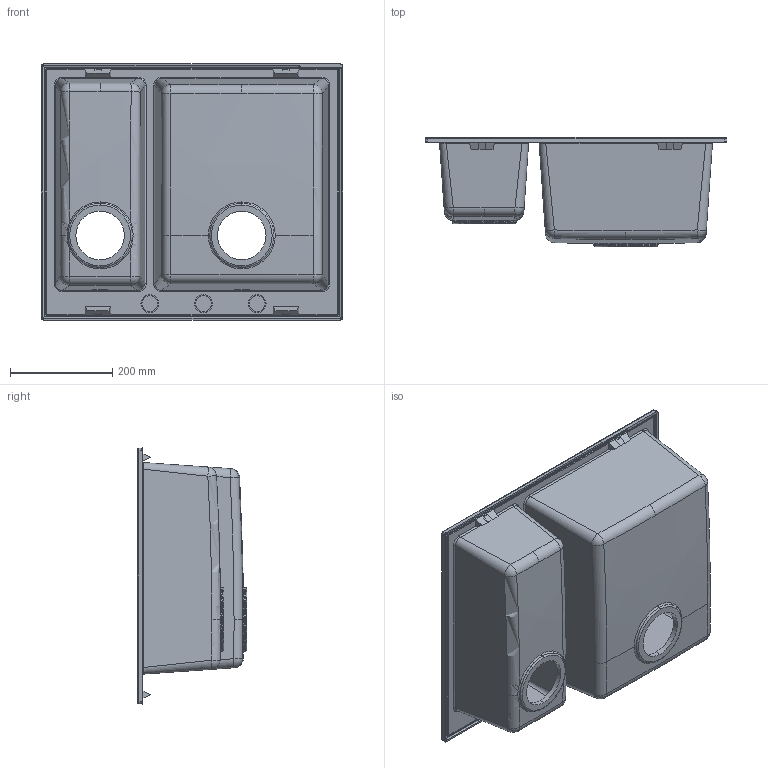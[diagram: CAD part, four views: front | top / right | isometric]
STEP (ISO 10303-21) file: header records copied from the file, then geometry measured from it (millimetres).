
FILE_DESCRIPTION (( 'STEP AP203' ), '1' );
FILE_NAME ('Quadra150.STEP', '2018-11-14T15:33:31', ( '' ), ( '' ), 'SwSTEP 2.0', 'SolidWorks 2013', '' );
FILE_SCHEMA (( 'CONFIG_CONTROL_DESIGN' ));
Length unit declared in the file: millimetre
Products named in the file (1): Quadra150
Bounding box: 591.4 x 214 x 501.4 mm (x, y, z)
Volume: 5557495.9 mm3; surface area: 1388425.1 mm2
Topology: 1 solids, 1 shells, 260 faces, 629 edges, 376 vertices
Faces by surface type: plane 65, cylinder 64, bspline 50, torus 49, sphere 24, cone 8
Entity records: 16159 total; most frequent: CARTESIAN_POINT 10398, ORIENTED_EDGE 1252, DIRECTION 1142, EDGE_CURVE 626, AXIS2_PLACEMENT_3D 468, VERTEX_POINT 376, EDGE_LOOP 276, FACE_OUTER_BOUND 260
